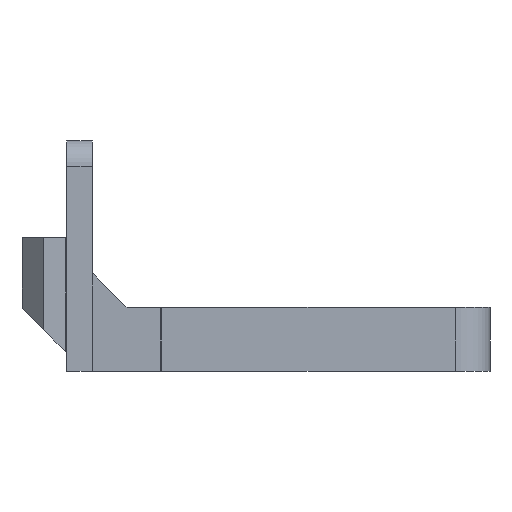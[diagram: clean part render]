
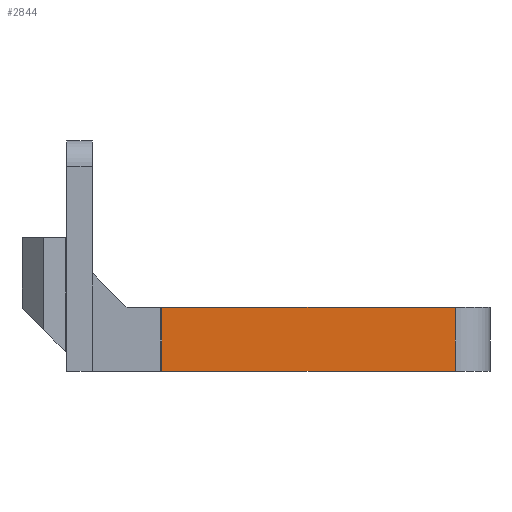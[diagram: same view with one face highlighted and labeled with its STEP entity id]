
A CAD part, front view. The second image highlights one B-rep face of the part: STEP entity #2844.
In plain terms, the highlighted planar face has unit normal (0, -1, 0).
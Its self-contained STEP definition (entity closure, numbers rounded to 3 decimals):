
#108=PLANE('',#3118);
#264=FACE_OUTER_BOUND('',#458,.T.);
#458=EDGE_LOOP('',(#2300,#2301,#2302,#2303));
#568=LINE('',#4270,#859);
#682=LINE('',#4568,#973);
#683=LINE('',#4573,#974);
#684=LINE('',#4576,#975);
#859=VECTOR('',#3397,10.);
#973=VECTOR('',#3729,10.);
#974=VECTOR('',#3736,10.);
#975=VECTOR('',#3741,10.);
#1291=VERTEX_POINT('',#4267);
#1292=VERTEX_POINT('',#4269);
#1367=VERTEX_POINT('',#4566);
#1368=VERTEX_POINT('',#4572);
#1543=EDGE_CURVE('',#1291,#1292,#568,.T.);
#1694=EDGE_CURVE('',#1367,#1291,#682,.T.);
#1696=EDGE_CURVE('',#1368,#1292,#683,.T.);
#1698=EDGE_CURVE('',#1367,#1368,#684,.F.);
#2300=ORIENTED_EDGE('',*,*,#1694,.F.);
#2301=ORIENTED_EDGE('',*,*,#1698,.T.);
#2302=ORIENTED_EDGE('',*,*,#1696,.T.);
#2303=ORIENTED_EDGE('',*,*,#1543,.F.);
#2844=ADVANCED_FACE('',(#264),#108,.T.);
#3118=AXIS2_PLACEMENT_3D('',#4575,#3739,#3740);
#3397=DIRECTION('',(-1.,0.,0.));
#3729=DIRECTION('',(0.,0.,-1.));
#3736=DIRECTION('',(0.,0.,-1.));
#3739=DIRECTION('center_axis',(0.,-1.,0.));
#3740=DIRECTION('ref_axis',(1.,0.,0.));
#3741=DIRECTION('',(1.,0.,0.));
#4267=CARTESIAN_POINT('',(141.15,-21.,-144.478));
#4269=CARTESIAN_POINT('',(107.15,-21.,-144.478));
#4270=CARTESIAN_POINT('',(141.15,-21.,-144.478));
#4566=CARTESIAN_POINT('',(141.15,-21.,-137.078));
#4568=CARTESIAN_POINT('',(141.15,-21.,-141.724));
#4572=CARTESIAN_POINT('',(107.15,-21.,-137.078));
#4573=CARTESIAN_POINT('',(107.15,-21.,-141.724));
#4575=CARTESIAN_POINT('Origin',(103.15,-21.,-141.724));
#4576=CARTESIAN_POINT('',(122.15,-21.,-137.078));
